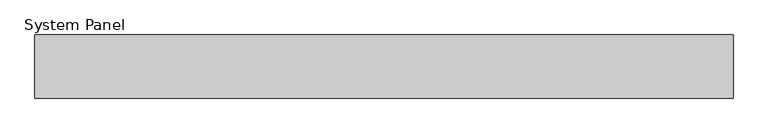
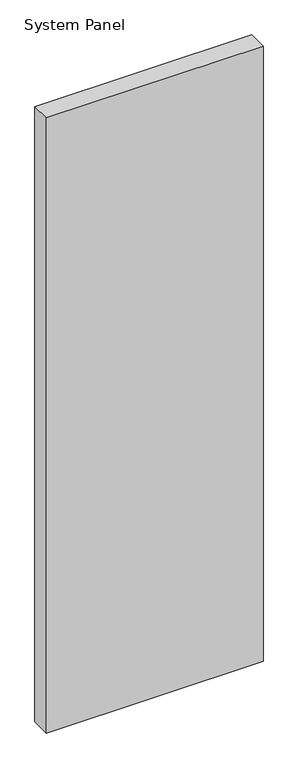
"""IFC4 building model written with IfcOpenShell, lengths in millimetres: plate geometry, System Panel : MetecnoPanel 100mm Vertical - Plain Astro - PIR."""

from ifc_helpers import new_model, si_unit, origin, origin_with_axes, place, context, project, spatial, polyline, outline, extrude, source, transform, mapped, element, save


def system_panel_21b04525(model_context):
    return source(origin(), model_context, "Body", "SweptSolid", [
        extrude(outline(polyline([(550.0, 0.0), (-550.0, 0.0), (-550.0, 100.0), (550.0, 100.0), (550.0, 0.0)])), origin_with_axes(), (0.0, 0.0, 1.0), 3300.0),
    ])


if __name__ == "__main__":
    model = new_model("IFC4")
    model_context = context("Model", 3, world=origin())
    ifc_project = project(units=[si_unit("LENGTHUNIT", "METRE", prefix="MILLI")], contexts=[model_context])
    site = spatial("IfcSite", under=ifc_project)
    building = spatial("IfcBuilding", under=site)
    placement = place(None, origin())
    system_panel_shape = system_panel_21b04525(model_context)
    element("IfcPlate", 1, ObjectType="System Panel : MetecnoPanel 100mm Vertical - Plain Astro - PIR", at=placement, inside=building, context=model_context, shape_type="MappedRepresentation", body=[
        mapped(system_panel_shape, transform((0.0, 0.0, 0.0), x_axis=(1.0, 0.0, 0.0), y_axis=(0.0, 1.0, 0.0), z_axis=(0.0, 0.0, 1.0))),
    ])
    save(model, "model.ifc")
